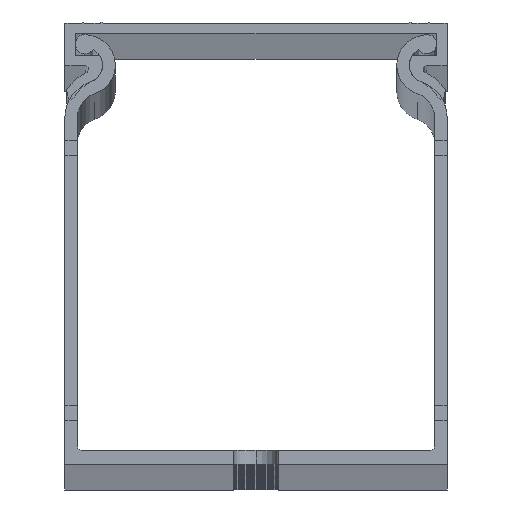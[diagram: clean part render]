
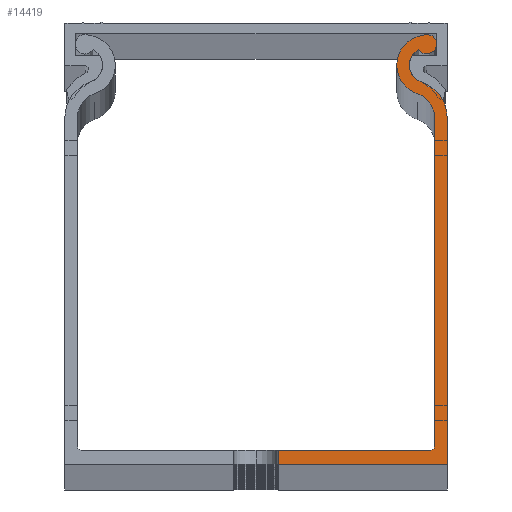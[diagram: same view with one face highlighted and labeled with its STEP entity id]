
A CAD part, top view. The second image highlights one B-rep face of the part: STEP entity #14419.
In plain terms, the highlighted planar face has unit normal (0, 0, 1).
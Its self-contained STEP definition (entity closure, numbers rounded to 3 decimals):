
#220 = EDGE_CURVE ( 'NONE', #40012, #63670, #6273, .T. ) ;
#636 = EDGE_CURVE ( 'NONE', #28024, #44563, #28947, .T. ) ;
#813 = VECTOR ( 'NONE', #32344, 1000. ) ;
#1235 = ORIENTED_EDGE ( 'NONE', *, *, #42589, .T. ) ;
#1260 = CARTESIAN_POINT ( 'NONE',  ( 2589.255, 1291.356, 2000. ) ) ;
#1557 = CARTESIAN_POINT ( 'NONE',  ( 2571.407, 1238.956, 2000. ) ) ;
#1918 = AXIS2_PLACEMENT_3D ( 'NONE', #52604, #22262, #7830 ) ;
#3933 = EDGE_CURVE ( 'NONE', #17725, #13988, #13640, .T. ) ;
#4077 = EDGE_CURVE ( 'NONE', #11184, #40012, #34858, .T. ) ;
#4954 = EDGE_CURVE ( 'NONE', #13988, #5460, #37195, .T. ) ;
#5370 = DIRECTION ( 'NONE',  ( 0., 0., 1. ) ) ;
#5460 = VERTEX_POINT ( 'NONE', #60284 ) ;
#5869 = VECTOR ( 'NONE', #31915, 1000. ) ;
#6030 = AXIS2_PLACEMENT_3D ( 'NONE', #16591, #51367, #61575 ) ;
#6273 = LINE ( 'NONE', #16222, #41294 ) ;
#6424 = DIRECTION ( 'NONE',  ( 1., 0., 0. ) ) ;
#7830 = DIRECTION ( 'NONE',  ( 1., 0., 0. ) ) ;
#7980 = CIRCLE ( 'NONE', #32821, 5.1 ) ;
#8286 = CIRCLE ( 'NONE', #50321, 3.4 ) ;
#9735 = AXIS2_PLACEMENT_3D ( 'NONE', #26633, #61122, #16806 ) ;
#9759 = AXIS2_PLACEMENT_3D ( 'NONE', #56883, #42121, #61654 ) ;
#9849 = VERTEX_POINT ( 'NONE', #54279 ) ;
#9928 = AXIS2_PLACEMENT_3D ( 'NONE', #57480, #63101, #19036 ) ;
#10089 = EDGE_CURVE ( 'NONE', #11100, #9849, #14150, .T. ) ;
#10144 = DIRECTION ( 'NONE',  ( 0., 1., 0. ) ) ;
#10301 = CARTESIAN_POINT ( 'NONE',  ( 2589.307, 1284.233, 2000. ) ) ;
#10510 = EDGE_LOOP ( 'NONE', ( #23566, #37361, #19745, #61242, #50084, #47063, #1235, #60723, #22857, #36198, #23496, #58761, #51152 ) ) ;
#11100 = VERTEX_POINT ( 'NONE', #59991 ) ;
#11184 = VERTEX_POINT ( 'NONE', #54982 ) ;
#11705 = LINE ( 'NONE', #57065, #813 ) ;
#13640 = LINE ( 'NONE', #41221, #5869 ) ;
#13988 = VERTEX_POINT ( 'NONE', #32787 ) ;
#14150 = CIRCLE ( 'NONE', #50812, 4.1 ) ;
#14414 = CARTESIAN_POINT ( 'NONE',  ( 2590.904, 1289.077, 2000. ) ) ;
#14419 = ADVANCED_FACE ( 'NONE', ( #37038 ), #21193, .T. ) ;
#14525 = CARTESIAN_POINT ( 'NONE',  ( 2589.307, 1284.233, 2000. ) ) ;
#14554 = CARTESIAN_POINT ( 'NONE',  ( 2591.657, 1294.213, 2000. ) ) ;
#14731 = VERTEX_POINT ( 'NONE', #63244 ) ;
#16222 = CARTESIAN_POINT ( 'NONE',  ( 2568.407, 1238.956, 2000. ) ) ;
#16591 = CARTESIAN_POINT ( 'NONE',  ( 2591.655, 1291.356, 2000. ) ) ;
#16601 = CARTESIAN_POINT ( 'NONE',  ( 2592.207, 1238.956, 2000. ) ) ;
#16806 = DIRECTION ( 'NONE',  ( 1., 0., 0. ) ) ;
#17725 = VERTEX_POINT ( 'NONE', #37037 ) ;
#18729 = EDGE_CURVE ( 'NONE', #9849, #26084, #8286, .T. ) ;
#19036 = DIRECTION ( 'NONE',  ( 1., 0., 0. ) ) ;
#19048 = CARTESIAN_POINT ( 'NONE',  ( 2592.707, 1284.203, 2000. ) ) ;
#19745 = ORIENTED_EDGE ( 'NONE', *, *, #4954, .T. ) ;
#21193 = PLANE ( 'NONE',  #9735 ) ;
#22262 = DIRECTION ( 'NONE',  ( 0., 0., 1. ) ) ;
#22857 = ORIENTED_EDGE ( 'NONE', *, *, #10089, .T. ) ;
#23496 = ORIENTED_EDGE ( 'NONE', *, *, #54128, .T. ) ;
#23566 = ORIENTED_EDGE ( 'NONE', *, *, #63137, .F. ) ;
#23922 = DIRECTION ( 'NONE',  ( 1., 0., 0. ) ) ;
#24995 = CARTESIAN_POINT ( 'NONE',  ( 2594.407, 1237.056, 2000. ) ) ;
#25586 = DIRECTION ( 'NONE',  ( 1., 0., 0. ) ) ;
#26084 = VERTEX_POINT ( 'NONE', #19048 ) ;
#26633 = CARTESIAN_POINT ( 'NONE',  ( 2547.507, 1284.233, 2000. ) ) ;
#28024 = VERTEX_POINT ( 'NONE', #14414 ) ;
#28947 = CIRCLE ( 'NONE', #6030, 2.4 ) ;
#29776 = VECTOR ( 'NONE', #61574, 1000. ) ;
#31617 = VERTEX_POINT ( 'NONE', #49868 ) ;
#31915 = DIRECTION ( 'NONE',  ( 1., 0., 0. ) ) ;
#32344 = DIRECTION ( 'NONE',  ( 0., -1., 0. ) ) ;
#32787 = CARTESIAN_POINT ( 'NONE',  ( 2594.407, 1237.056, 2000. ) ) ;
#32821 = AXIS2_PLACEMENT_3D ( 'NONE', #14525, #5370, #59722 ) ;
#34858 = CIRCLE ( 'NONE', #9928, 0.5 ) ;
#36198 = ORIENTED_EDGE ( 'NONE', *, *, #18729, .T. ) ;
#36237 = DIRECTION ( 'NONE',  ( -1., 0., 0. ) ) ;
#37037 = CARTESIAN_POINT ( 'NONE',  ( 2571.407, 1237.056, 2000. ) ) ;
#37038 = FACE_OUTER_BOUND ( 'NONE', #10510, .T. ) ;
#37195 = LINE ( 'NONE', #24995, #60476 ) ;
#37361 = ORIENTED_EDGE ( 'NONE', *, *, #3933, .T. ) ;
#37862 = CIRCLE ( 'NONE', #9759, 2.4 ) ;
#40012 = VERTEX_POINT ( 'NONE', #16601 ) ;
#41221 = CARTESIAN_POINT ( 'NONE',  ( 2568.407, 1237.056, 2000. ) ) ;
#41294 = VECTOR ( 'NONE', #36237, 1000. ) ;
#42121 = DIRECTION ( 'NONE',  ( 0., 0., -1. ) ) ;
#42589 = EDGE_CURVE ( 'NONE', #14731, #31617, #45740, .T. ) ;
#44342 = DIRECTION ( 'NONE',  ( 0., 0., 1. ) ) ;
#44563 = VERTEX_POINT ( 'NONE', #1260 ) ;
#45740 = CIRCLE ( 'NONE', #46545, 1.35 ) ;
#46545 = AXIS2_PLACEMENT_3D ( 'NONE', #14554, #44342, #23922 ) ;
#47063 = ORIENTED_EDGE ( 'NONE', *, *, #48100, .T. ) ;
#48100 = EDGE_CURVE ( 'NONE', #44563, #14731, #37862, .T. ) ;
#48369 = LINE ( 'NONE', #51557, #29776 ) ;
#49587 = EDGE_CURVE ( 'NONE', #5460, #28024, #7980, .T. ) ;
#49868 = CARTESIAN_POINT ( 'NONE',  ( 2591.029, 1295.408, 2000. ) ) ;
#50084 = ORIENTED_EDGE ( 'NONE', *, *, #636, .T. ) ;
#50308 = DIRECTION ( 'NONE',  ( 0., 0., -1. ) ) ;
#50321 = AXIS2_PLACEMENT_3D ( 'NONE', #10301, #50308, #25586 ) ;
#50812 = AXIS2_PLACEMENT_3D ( 'NONE', #60971, #51426, #6424 ) ;
#51152 = ORIENTED_EDGE ( 'NONE', *, *, #220, .T. ) ;
#51367 = DIRECTION ( 'NONE',  ( 0., 0., -1. ) ) ;
#51426 = DIRECTION ( 'NONE',  ( 0., 0., 1. ) ) ;
#51557 = CARTESIAN_POINT ( 'NONE',  ( 2571.407, 1284.233, 2000. ) ) ;
#52604 = CARTESIAN_POINT ( 'NONE',  ( 2591.655, 1291.356, 2000. ) ) ;
#54128 = EDGE_CURVE ( 'NONE', #26084, #11184, #11705, .T. ) ;
#54279 = CARTESIAN_POINT ( 'NONE',  ( 2590.372, 1287.462, 2000. ) ) ;
#54670 = EDGE_CURVE ( 'NONE', #31617, #11100, #58259, .T. ) ;
#54982 = CARTESIAN_POINT ( 'NONE',  ( 2592.707, 1239.456, 2000. ) ) ;
#56883 = CARTESIAN_POINT ( 'NONE',  ( 2591.655, 1291.356, 2000. ) ) ;
#57065 = CARTESIAN_POINT ( 'NONE',  ( 2592.707, 1284.203, 2000. ) ) ;
#57480 = CARTESIAN_POINT ( 'NONE',  ( 2592.207, 1239.456, 2000. ) ) ;
#58259 = CIRCLE ( 'NONE', #1918, 4.1 ) ;
#58761 = ORIENTED_EDGE ( 'NONE', *, *, #4077, .T. ) ;
#59722 = DIRECTION ( 'NONE',  ( 1., 0., 0. ) ) ;
#59991 = CARTESIAN_POINT ( 'NONE',  ( 2587.555, 1291.356, 2000. ) ) ;
#60284 = CARTESIAN_POINT ( 'NONE',  ( 2594.407, 1284.196, 2000. ) ) ;
#60476 = VECTOR ( 'NONE', #10144, 1000. ) ;
#60723 = ORIENTED_EDGE ( 'NONE', *, *, #54670, .T. ) ;
#60971 = CARTESIAN_POINT ( 'NONE',  ( 2591.655, 1291.356, 2000. ) ) ;
#61122 = DIRECTION ( 'NONE',  ( 0., 0., 1. ) ) ;
#61242 = ORIENTED_EDGE ( 'NONE', *, *, #49587, .T. ) ;
#61574 = DIRECTION ( 'NONE',  ( 0., 1., 0. ) ) ;
#61575 = DIRECTION ( 'NONE',  ( 1., 0., 0. ) ) ;
#61654 = DIRECTION ( 'NONE',  ( 1., 0., 0. ) ) ;
#63101 = DIRECTION ( 'NONE',  ( 0., 0., -1. ) ) ;
#63137 = EDGE_CURVE ( 'NONE', #17725, #63670, #48369, .T. ) ;
#63244 = CARTESIAN_POINT ( 'NONE',  ( 2590.527, 1293.474, 2000. ) ) ;
#63670 = VERTEX_POINT ( 'NONE', #1557 ) ;
